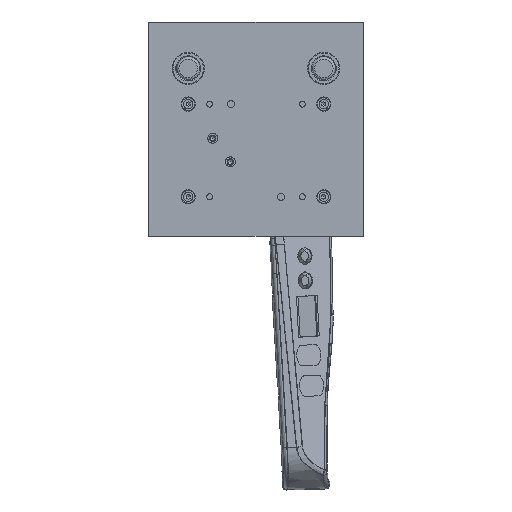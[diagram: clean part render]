
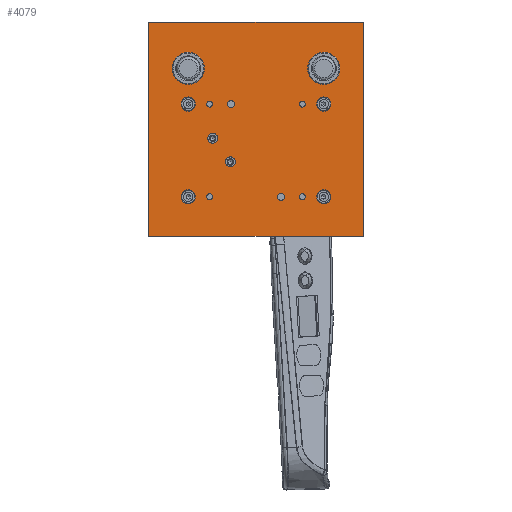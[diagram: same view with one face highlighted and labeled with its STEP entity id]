
A CAD part, top view. The second image highlights one B-rep face of the part: STEP entity #4079.
In plain terms, the highlighted planar face has unit normal (0, 0, 1).
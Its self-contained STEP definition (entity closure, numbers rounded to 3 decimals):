
#4079=ADVANCED_FACE('',(#6834,#6835,#6836,#6837,#6838,#6839,#6840,#6841,
#6842,#6843,#6844,#6845,#6846,#6847,#6848),#6204,.T.);
#6204=PLANE('',#50224);
#6834=FACE_BOUND('',#7611,.T.);
#6835=FACE_BOUND('',#7612,.T.);
#6836=FACE_BOUND('',#7613,.T.);
#6837=FACE_BOUND('',#7614,.T.);
#6838=FACE_BOUND('',#7615,.T.);
#6839=FACE_BOUND('',#7616,.T.);
#6840=FACE_BOUND('',#7617,.T.);
#6841=FACE_BOUND('',#7618,.T.);
#6842=FACE_BOUND('',#7619,.T.);
#6843=FACE_BOUND('',#7620,.T.);
#6844=FACE_BOUND('',#7621,.T.);
#6845=FACE_BOUND('',#7622,.T.);
#6846=FACE_BOUND('',#7623,.T.);
#6847=FACE_BOUND('',#7624,.T.);
#6848=FACE_BOUND('',#7625,.T.);
#7611=EDGE_LOOP('',(#11169));
#7612=EDGE_LOOP('',(#11170));
#7613=EDGE_LOOP('',(#11171));
#7614=EDGE_LOOP('',(#11172));
#7615=EDGE_LOOP('',(#11173));
#7616=EDGE_LOOP('',(#11174));
#7617=EDGE_LOOP('',(#11175));
#7618=EDGE_LOOP('',(#11176));
#7619=EDGE_LOOP('',(#11177));
#7620=EDGE_LOOP('',(#11178));
#7621=EDGE_LOOP('',(#11179,#11180,#11181,#11182));
#7622=EDGE_LOOP('',(#11183));
#7623=EDGE_LOOP('',(#11184));
#7624=EDGE_LOOP('',(#11185));
#7625=EDGE_LOOP('',(#11186));
#11169=ORIENTED_EDGE('',*,*,#33271,.F.);
#11170=ORIENTED_EDGE('',*,*,#33272,.F.);
#11171=ORIENTED_EDGE('',*,*,#33273,.F.);
#11172=ORIENTED_EDGE('',*,*,#33274,.F.);
#11173=ORIENTED_EDGE('',*,*,#33275,.T.);
#11174=ORIENTED_EDGE('',*,*,#33276,.T.);
#11175=ORIENTED_EDGE('',*,*,#33277,.F.);
#11176=ORIENTED_EDGE('',*,*,#33278,.F.);
#11177=ORIENTED_EDGE('',*,*,#33279,.F.);
#11178=ORIENTED_EDGE('',*,*,#33280,.F.);
#11179=ORIENTED_EDGE('',*,*,#33281,.F.);
#11180=ORIENTED_EDGE('',*,*,#33282,.F.);
#11181=ORIENTED_EDGE('',*,*,#33283,.F.);
#11182=ORIENTED_EDGE('',*,*,#33284,.F.);
#11183=ORIENTED_EDGE('',*,*,#33285,.F.);
#11184=ORIENTED_EDGE('',*,*,#33286,.T.);
#11185=ORIENTED_EDGE('',*,*,#33287,.F.);
#11186=ORIENTED_EDGE('',*,*,#33288,.T.);
#26907=VERTEX_POINT('',#70459);
#26908=VERTEX_POINT('',#70461);
#26909=VERTEX_POINT('',#70463);
#26910=VERTEX_POINT('',#70465);
#26911=VERTEX_POINT('',#70467);
#26912=VERTEX_POINT('',#70469);
#26913=VERTEX_POINT('',#70471);
#26914=VERTEX_POINT('',#70473);
#26915=VERTEX_POINT('',#70475);
#26916=VERTEX_POINT('',#70477);
#26917=VERTEX_POINT('',#70479);
#26918=VERTEX_POINT('',#70480);
#26919=VERTEX_POINT('',#70482);
#26920=VERTEX_POINT('',#70484);
#26921=VERTEX_POINT('',#70487);
#26922=VERTEX_POINT('',#70489);
#26923=VERTEX_POINT('',#70491);
#26924=VERTEX_POINT('',#70493);
#33271=EDGE_CURVE('',#26907,#26907,#48184,.T.);
#33272=EDGE_CURVE('',#26908,#26908,#48185,.T.);
#33273=EDGE_CURVE('',#26909,#26909,#48186,.T.);
#33274=EDGE_CURVE('',#26910,#26910,#48187,.T.);
#33275=EDGE_CURVE('',#26911,#26911,#48188,.T.);
#33276=EDGE_CURVE('',#26912,#26912,#48189,.T.);
#33277=EDGE_CURVE('',#26913,#26913,#48190,.T.);
#33278=EDGE_CURVE('',#26914,#26914,#48191,.T.);
#33279=EDGE_CURVE('',#26915,#26915,#48192,.T.);
#33280=EDGE_CURVE('',#26916,#26916,#48193,.T.);
#33281=EDGE_CURVE('',#26917,#26918,#48731,.T.);
#33282=EDGE_CURVE('',#26919,#26917,#48732,.T.);
#33283=EDGE_CURVE('',#26920,#26919,#48733,.T.);
#33284=EDGE_CURVE('',#26918,#26920,#48734,.T.);
#33285=EDGE_CURVE('',#26921,#26921,#48194,.T.);
#33286=EDGE_CURVE('',#26922,#26922,#48195,.T.);
#33287=EDGE_CURVE('',#26923,#26923,#48196,.T.);
#33288=EDGE_CURVE('',#26924,#26924,#48197,.T.);
#48184=CIRCLE('',#50210,7.);
#48185=CIRCLE('',#50211,7.);
#48186=CIRCLE('',#50212,22.5);
#48187=CIRCLE('',#50213,22.5);
#48188=CIRCLE('',#50214,4.25);
#48189=CIRCLE('',#50215,5.);
#48190=CIRCLE('',#50216,10.);
#48191=CIRCLE('',#50217,10.);
#48192=CIRCLE('',#50218,10.);
#48193=CIRCLE('',#50219,10.);
#48194=CIRCLE('',#50220,4.25);
#48195=CIRCLE('',#50221,4.25);
#48196=CIRCLE('',#50222,4.25);
#48197=CIRCLE('',#50223,5.);
#48731=LINE('',#70478,#49425);
#48732=LINE('',#70481,#49426);
#48733=LINE('',#70483,#49427);
#48734=LINE('',#70485,#49428);
#49425=VECTOR('',#52171,1.);
#49426=VECTOR('',#52172,1.);
#49427=VECTOR('',#52173,1.);
#49428=VECTOR('',#52174,1.);
#50210=AXIS2_PLACEMENT_3D('',#70458,#52151,#52152);
#50211=AXIS2_PLACEMENT_3D('',#70460,#52153,#52154);
#50212=AXIS2_PLACEMENT_3D('',#70462,#52155,#52156);
#50213=AXIS2_PLACEMENT_3D('',#70464,#52157,#52158);
#50214=AXIS2_PLACEMENT_3D('',#70466,#52159,#52160);
#50215=AXIS2_PLACEMENT_3D('',#70468,#52161,#52162);
#50216=AXIS2_PLACEMENT_3D('',#70470,#52163,#52164);
#50217=AXIS2_PLACEMENT_3D('',#70472,#52165,#52166);
#50218=AXIS2_PLACEMENT_3D('',#70474,#52167,#52168);
#50219=AXIS2_PLACEMENT_3D('',#70476,#52169,#52170);
#50220=AXIS2_PLACEMENT_3D('',#70486,#52175,#52176);
#50221=AXIS2_PLACEMENT_3D('',#70488,#52177,#52178);
#50222=AXIS2_PLACEMENT_3D('',#70490,#52179,#52180);
#50223=AXIS2_PLACEMENT_3D('',#70492,#52181,#52182);
#50224=AXIS2_PLACEMENT_3D('',#70494,#52183,#52184);
#52151=DIRECTION('',(0.,0.,1.));
#52152=DIRECTION('',(1.,0.,0.));
#52153=DIRECTION('',(0.,0.,1.));
#52154=DIRECTION('',(1.,0.,0.));
#52155=DIRECTION('',(0.,0.,1.));
#52156=DIRECTION('',(1.,0.,0.));
#52157=DIRECTION('',(0.,0.,1.));
#52158=DIRECTION('',(1.,0.,0.));
#52159=DIRECTION('',(0.,0.,-1.));
#52160=DIRECTION('',(-1.,0.,0.));
#52161=DIRECTION('',(0.,0.,-1.));
#52162=DIRECTION('',(1.,0.,0.));
#52163=DIRECTION('',(0.,0.,1.));
#52164=DIRECTION('',(1.,0.,0.));
#52165=DIRECTION('',(0.,0.,1.));
#52166=DIRECTION('',(1.,0.,0.));
#52167=DIRECTION('',(0.,0.,1.));
#52168=DIRECTION('',(1.,0.,0.));
#52169=DIRECTION('',(0.,0.,1.));
#52170=DIRECTION('',(1.,0.,0.));
#52171=DIRECTION('',(-1.,0.,0.));
#52172=DIRECTION('',(0.,-1.,0.));
#52173=DIRECTION('',(1.,0.,0.));
#52174=DIRECTION('',(0.,1.,0.));
#52175=DIRECTION('',(0.,0.,1.));
#52176=DIRECTION('',(1.,0.,0.));
#52177=DIRECTION('',(0.,0.,-1.));
#52178=DIRECTION('',(1.,0.,0.));
#52179=DIRECTION('',(0.,0.,1.));
#52180=DIRECTION('',(-1.,0.,0.));
#52181=DIRECTION('',(0.,0.,-1.));
#52182=DIRECTION('',(1.,0.,0.));
#52183=DIRECTION('',(0.,0.,1.));
#52184=DIRECTION('',(1.,0.,0.));
#70458=CARTESIAN_POINT('',(210.926,120.371,47.042));
#70459=CARTESIAN_POINT('',(217.926,120.371,47.042));
#70460=CARTESIAN_POINT('',(235.532,87.287,47.042));
#70461=CARTESIAN_POINT('',(242.532,87.287,47.042));
#70462=CARTESIAN_POINT('',(366.562,218.342,47.042));
#70463=CARTESIAN_POINT('',(389.062,218.342,47.042));
#70464=CARTESIAN_POINT('',(176.562,218.342,47.042));
#70465=CARTESIAN_POINT('',(199.062,218.342,47.042));
#70466=CARTESIAN_POINT('',(336.562,168.342,47.042));
#70467=CARTESIAN_POINT('',(332.312,168.342,47.042));
#70468=CARTESIAN_POINT('',(236.562,168.342,47.042));
#70469=CARTESIAN_POINT('',(241.562,168.342,47.042));
#70470=CARTESIAN_POINT('',(176.562,168.342,47.042));
#70471=CARTESIAN_POINT('',(186.562,168.342,47.042));
#70472=CARTESIAN_POINT('',(366.562,168.342,47.042));
#70473=CARTESIAN_POINT('',(376.562,168.342,47.042));
#70474=CARTESIAN_POINT('',(176.562,38.342,47.042));
#70475=CARTESIAN_POINT('',(186.562,38.342,47.042));
#70476=CARTESIAN_POINT('',(366.562,38.342,47.042));
#70477=CARTESIAN_POINT('',(376.562,38.342,47.042));
#70478=CARTESIAN_POINT('',(271.562,-16.658,47.042));
#70479=CARTESIAN_POINT('',(421.562,-16.658,47.042));
#70480=CARTESIAN_POINT('',(121.562,-16.658,47.042));
#70481=CARTESIAN_POINT('',(421.562,103.342,47.042));
#70482=CARTESIAN_POINT('',(421.562,283.342,47.042));
#70483=CARTESIAN_POINT('',(271.562,283.342,47.042));
#70484=CARTESIAN_POINT('',(121.562,283.342,47.042));
#70485=CARTESIAN_POINT('',(121.562,103.342,47.042));
#70486=CARTESIAN_POINT('',(206.562,168.342,47.042));
#70487=CARTESIAN_POINT('',(210.812,168.342,47.042));
#70488=CARTESIAN_POINT('',(206.562,38.342,47.042));
#70489=CARTESIAN_POINT('',(210.812,38.342,47.042));
#70490=CARTESIAN_POINT('',(336.562,38.342,47.042));
#70491=CARTESIAN_POINT('',(332.312,38.342,47.042));
#70492=CARTESIAN_POINT('',(306.562,38.342,47.042));
#70493=CARTESIAN_POINT('',(311.562,38.342,47.042));
#70494=CARTESIAN_POINT('',(271.562,103.342,47.042));
